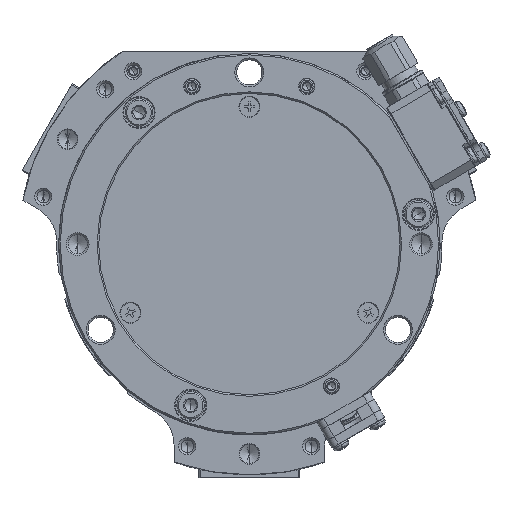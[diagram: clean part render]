
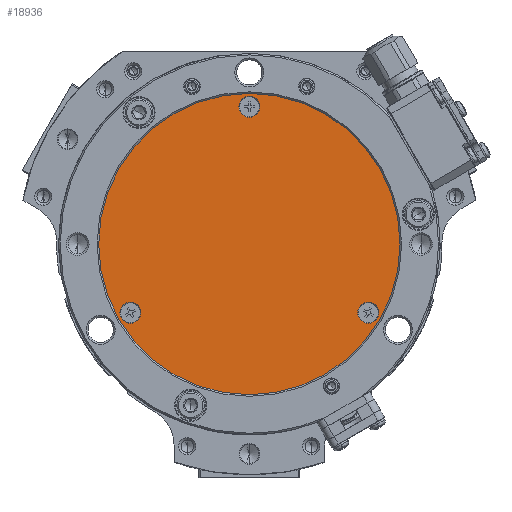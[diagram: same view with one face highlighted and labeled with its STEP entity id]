
A CAD part, front view. The second image highlights one B-rep face of the part: STEP entity #18936.
In plain terms, the highlighted planar face has unit normal (0, -1, 0) as drawn and (0, 1, 0) by its records, which use the part's own axes.
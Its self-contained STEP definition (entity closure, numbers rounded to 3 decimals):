
#256 = EDGE_CURVE ( 'NONE', #54526, #26856, #6538, .T. ) ;
#2086 = CIRCLE ( 'NONE', #8918, 39.5 ) ;
#2281 = DIRECTION ( 'NONE',  ( 0., 0., 1. ) ) ;
#2770 = FACE_BOUND ( 'NONE', #13898, .T. ) ;
#3191 = DIRECTION ( 'NONE',  ( 0., 0., -1. ) ) ;
#4246 = CIRCLE ( 'NONE', #27555, 2.75 ) ;
#4849 = DIRECTION ( 'NONE',  ( 0.866, 0., -0.5 ) ) ;
#5467 = CIRCLE ( 'NONE', #21904, 2.75 ) ;
#6538 = CIRCLE ( 'NONE', #16226, 2.75 ) ;
#6779 = DIRECTION ( 'NONE',  ( 0., 1., 0. ) ) ;
#8347 = CARTESIAN_POINT ( 'NONE',  ( 0., 1.5, 0. ) ) ;
#8918 = AXIS2_PLACEMENT_3D ( 'NONE', #10770, #23640, #49863 ) ;
#10770 = CARTESIAN_POINT ( 'NONE',  ( 0., 1.5, 0. ) ) ;
#10826 = CARTESIAN_POINT ( 'NONE',  ( 20.382, 1.5, 29.802 ) ) ;
#10864 = CARTESIAN_POINT ( 'NONE',  ( -36., 1.5, -2.75 ) ) ;
#11250 = CARTESIAN_POINT ( 'NONE',  ( 18., 1.5, 31.177 ) ) ;
#12447 = DIRECTION ( 'NONE',  ( 0., 1., 0. ) ) ;
#13898 = EDGE_LOOP ( 'NONE', ( #65644, #78822 ) ) ;
#14424 = CIRCLE ( 'NONE', #23991, 39.5 ) ;
#15203 = CARTESIAN_POINT ( 'NONE',  ( -36., 1.5, 0. ) ) ;
#16226 = AXIS2_PLACEMENT_3D ( 'NONE', #60655, #61079, #2281 ) ;
#17407 = VERTEX_POINT ( 'NONE', #63527 ) ;
#18936 = ADVANCED_FACE ( 'NONE', ( #61575, #62424, #2770, #67151 ), #29323, .F. ) ;
#20907 = CARTESIAN_POINT ( 'NONE',  ( 20.382, 1.5, -29.802 ) ) ;
#21393 = EDGE_LOOP ( 'NONE', ( #80554, #60268 ) ) ;
#21410 = AXIS2_PLACEMENT_3D ( 'NONE', #15203, #28915, #81762 ) ;
#21904 = AXIS2_PLACEMENT_3D ( 'NONE', #39811, #6779, #41064 ) ;
#23571 = EDGE_CURVE ( 'NONE', #80100, #37006, #49753, .T. ) ;
#23640 = DIRECTION ( 'NONE',  ( 0., 1., 0. ) ) ;
#23945 = CARTESIAN_POINT ( 'NONE',  ( 0., 1.5, -39.5 ) ) ;
#23991 = AXIS2_PLACEMENT_3D ( 'NONE', #25763, #43809, #51131 ) ;
#25475 = DIRECTION ( 'NONE',  ( -0.866, 0., -0.5 ) ) ;
#25763 = CARTESIAN_POINT ( 'NONE',  ( 0., 1.5, 0. ) ) ;
#26856 = VERTEX_POINT ( 'NONE', #10864 ) ;
#27187 = EDGE_CURVE ( 'NONE', #46171, #45135, #2086, .T. ) ;
#27555 = AXIS2_PLACEMENT_3D ( 'NONE', #11250, #63660, #4849 ) ;
#28915 = DIRECTION ( 'NONE',  ( 0., 1., 0. ) ) ;
#29323 = PLANE ( 'NONE',  #46585 ) ;
#30103 = AXIS2_PLACEMENT_3D ( 'NONE', #45061, #12447, #38626 ) ;
#32845 = ORIENTED_EDGE ( 'NONE', *, *, #72416, .F. ) ;
#32880 = ORIENTED_EDGE ( 'NONE', *, *, #46441, .F. ) ;
#36220 = EDGE_CURVE ( 'NONE', #45135, #46171, #14424, .T. ) ;
#37006 = VERTEX_POINT ( 'NONE', #84436 ) ;
#37039 = EDGE_CURVE ( 'NONE', #26856, #54526, #54269, .T. ) ;
#38626 = DIRECTION ( 'NONE',  ( -0.866, 0., -0.5 ) ) ;
#39420 = ORIENTED_EDGE ( 'NONE', *, *, #45383, .F. ) ;
#39811 = CARTESIAN_POINT ( 'NONE',  ( 18., 1.5, 31.177 ) ) ;
#41064 = DIRECTION ( 'NONE',  ( 0.866, 0., -0.5 ) ) ;
#42600 = ORIENTED_EDGE ( 'NONE', *, *, #23571, .F. ) ;
#43809 = DIRECTION ( 'NONE',  ( 0., 1., 0. ) ) ;
#45061 = CARTESIAN_POINT ( 'NONE',  ( 18., 1.5, -31.177 ) ) ;
#45135 = VERTEX_POINT ( 'NONE', #66196 ) ;
#45383 = EDGE_CURVE ( 'NONE', #37006, #80100, #56154, .T. ) ;
#46171 = VERTEX_POINT ( 'NONE', #23945 ) ;
#46441 = EDGE_CURVE ( 'NONE', #73119, #17407, #5467, .T. ) ;
#46585 = AXIS2_PLACEMENT_3D ( 'NONE', #8347, #68839, #3191 ) ;
#49753 = CIRCLE ( 'NONE', #68983, 2.75 ) ;
#49863 = DIRECTION ( 'NONE',  ( 0., 0., 1. ) ) ;
#51131 = DIRECTION ( 'NONE',  ( 0., 0., 1. ) ) ;
#54269 = CIRCLE ( 'NONE', #21410, 2.75 ) ;
#54526 = VERTEX_POINT ( 'NONE', #63564 ) ;
#55152 = EDGE_LOOP ( 'NONE', ( #39420, #42600 ) ) ;
#56154 = CIRCLE ( 'NONE', #30103, 2.75 ) ;
#58111 = CARTESIAN_POINT ( 'NONE',  ( 18., 1.5, -31.177 ) ) ;
#60268 = ORIENTED_EDGE ( 'NONE', *, *, #27187, .T. ) ;
#60655 = CARTESIAN_POINT ( 'NONE',  ( -36., 1.5, 0. ) ) ;
#61079 = DIRECTION ( 'NONE',  ( 0., 1., 0. ) ) ;
#61575 = FACE_BOUND ( 'NONE', #62969, .T. ) ;
#62424 = FACE_BOUND ( 'NONE', #55152, .T. ) ;
#62969 = EDGE_LOOP ( 'NONE', ( #32880, #32845 ) ) ;
#63527 = CARTESIAN_POINT ( 'NONE',  ( 15.618, 1.5, 32.552 ) ) ;
#63564 = CARTESIAN_POINT ( 'NONE',  ( -36., 1.5, 2.75 ) ) ;
#63660 = DIRECTION ( 'NONE',  ( 0., 1., 0. ) ) ;
#65644 = ORIENTED_EDGE ( 'NONE', *, *, #256, .F. ) ;
#66196 = CARTESIAN_POINT ( 'NONE',  ( 0., 1.5, 39.5 ) ) ;
#67151 = FACE_OUTER_BOUND ( 'NONE', #21393, .T. ) ;
#68839 = DIRECTION ( 'NONE',  ( 0., -1., 0. ) ) ;
#68983 = AXIS2_PLACEMENT_3D ( 'NONE', #58111, #75408, #25475 ) ;
#72416 = EDGE_CURVE ( 'NONE', #17407, #73119, #4246, .T. ) ;
#73119 = VERTEX_POINT ( 'NONE', #10826 ) ;
#75408 = DIRECTION ( 'NONE',  ( 0., 1., 0. ) ) ;
#78822 = ORIENTED_EDGE ( 'NONE', *, *, #37039, .F. ) ;
#80100 = VERTEX_POINT ( 'NONE', #20907 ) ;
#80554 = ORIENTED_EDGE ( 'NONE', *, *, #36220, .T. ) ;
#81762 = DIRECTION ( 'NONE',  ( 0., 0., 1. ) ) ;
#84436 = CARTESIAN_POINT ( 'NONE',  ( 15.618, 1.5, -32.552 ) ) ;
